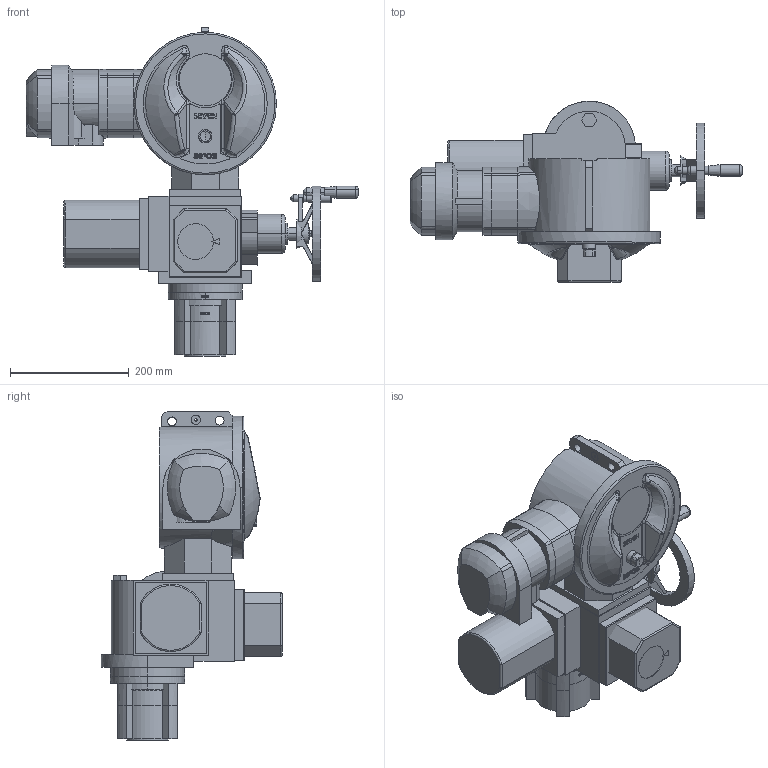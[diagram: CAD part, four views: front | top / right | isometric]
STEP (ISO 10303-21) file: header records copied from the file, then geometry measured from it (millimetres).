
FILE_DESCRIPTION(('Creo Elements/Direct Modeling STEP Export'),'2;1');
FILE_NAME('2SA7.1_2SA7.2.stp','2017-09-22T14:44:49',(''),(''),'Creo Elements/Direct Modeling STEP processor for AP214 (Solid Model)','Creo Elements/Direct Modeling 18.1B 29-Sep-2012 (C) Parametric Technology GmbH','');
FILE_SCHEMA(('AUTOMOTIVE_DESIGN { 1 0 10303 214 1 1 1 1 }'));
Length unit declared in the file: millimetre
Products named in the file (17): Plug_Connection; Field_Bus; Select_E_Connection; Actuator_Size_1; Hand_Wheel_Size_1; Hand_Crank_Size_1; Select_Manual_Drive; Cover_Signaling_Device; Cover_niP; Select_Cover_Pos_Recording; E_Housing_Small; Shaft_A_F10; Shaft_A_F07; Shaft_AF_F10; Flange_F10_F07; Select_Output_Shaft_Add_Part; 2SA7.1_2SA7.2
Assembly tree (16 placements, depth 3):
  2SA7.1_2SA7.2
    Select_Output_Shaft_Add_Part
      Flange_F10_F07
      Shaft_AF_F10
      Shaft_A_F07
      Shaft_A_F10
    E_Housing_Small
    Select_Cover_Pos_Recording
      Cover_niP
      Cover_Signaling_Device
    Select_Manual_Drive
      Hand_Crank_Size_1
      Hand_Wheel_Size_1
    Actuator_Size_1
    Select_E_Connection
      Field_Bus
      Plug_Connection
Bounding box: 559.5 x 306 x 554 mm (x, y, z)
Volume: 18539003.6 mm3; surface area: 1000493.5 mm2
Topology: 12 solids, 12 shells, 1742 faces, 4609 edges, 3003 vertices
Faces by surface type: plane 1223, cylinder 328, cone 77, bspline 52, extrusion 30, torus 28, sphere 4
Entity records: 72417 total; most frequent: CARTESIAN_POINT 26313, ORIENTED_EDGE 9118, DIRECTION 8206, EDGE_CURVE 4559, VECTOR 3078, LINE 3048, VERTEX_POINT 3003, AXIS2_PLACEMENT_3D 2564
